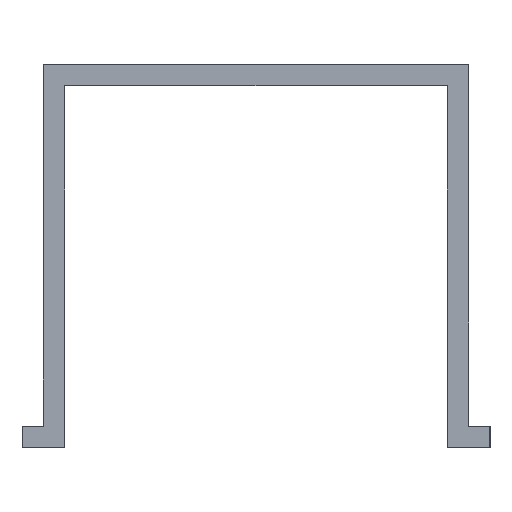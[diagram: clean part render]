
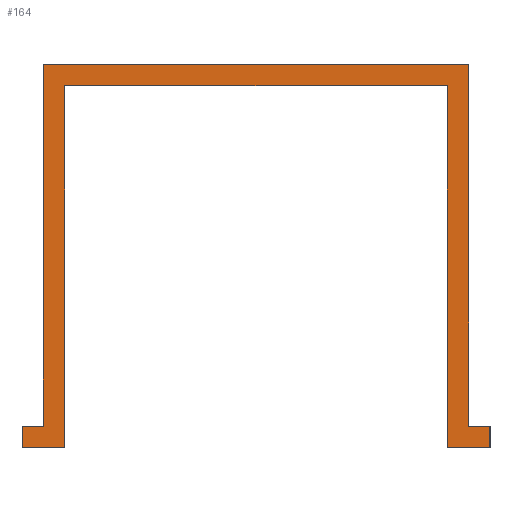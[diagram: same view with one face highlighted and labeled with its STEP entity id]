
A CAD part, left-side view. The second image highlights one B-rep face of the part: STEP entity #164.
In plain terms, the highlighted planar face has unit normal (-1, 0, 0).
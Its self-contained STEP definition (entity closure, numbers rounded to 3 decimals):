
#164=ADVANCED_FACE('',(#339),#340,.F.);
#339=FACE_OUTER_BOUND('',#518,.T.);
#340=PLANE('',#519);
#518=EDGE_LOOP('',(#941,#942,#943,#944,#945,#946,#947,#948,#949,#950,#951,#952,#953,#954,#955,#956));
#519=AXIS2_PLACEMENT_3D('',#957,#958,#959);
#941=ORIENTED_EDGE('',*,*,#1239,.T.);
#942=ORIENTED_EDGE('',*,*,#1141,.T.);
#943=ORIENTED_EDGE('',*,*,#1211,.T.);
#944=ORIENTED_EDGE('',*,*,#1216,.F.);
#945=ORIENTED_EDGE('',*,*,#1205,.F.);
#946=ORIENTED_EDGE('',*,*,#1236,.T.);
#947=ORIENTED_EDGE('',*,*,#1240,.T.);
#948=ORIENTED_EDGE('',*,*,#1241,.T.);
#949=ORIENTED_EDGE('',*,*,#1242,.T.);
#950=ORIENTED_EDGE('',*,*,#1243,.T.);
#951=ORIENTED_EDGE('',*,*,#1244,.T.);
#952=ORIENTED_EDGE('',*,*,#1245,.T.);
#953=ORIENTED_EDGE('',*,*,#1246,.T.);
#954=ORIENTED_EDGE('',*,*,#1247,.T.);
#955=ORIENTED_EDGE('',*,*,#1248,.T.);
#956=ORIENTED_EDGE('',*,*,#1249,.T.);
#957=CARTESIAN_POINT('',(0.0,0.,-6.763));
#958=DIRECTION('',(1.0,0.0,0.0));
#959=DIRECTION('',(0.0,0.,-1.0));
#1141=EDGE_CURVE('',#1381,#1379,#1382,.T.);
#1205=EDGE_CURVE('',#1473,#1476,#1477,.T.);
#1211=EDGE_CURVE('',#1379,#1484,#1486,.T.);
#1216=EDGE_CURVE('',#1476,#1484,#1493,.T.);
#1236=EDGE_CURVE('',#1473,#1516,#1518,.T.);
#1239=EDGE_CURVE('',#1521,#1381,#1522,.T.);
#1240=EDGE_CURVE('',#1516,#1523,#1524,.T.);
#1241=EDGE_CURVE('',#1523,#1525,#1526,.T.);
#1242=EDGE_CURVE('',#1525,#1527,#1528,.T.);
#1243=EDGE_CURVE('',#1527,#1529,#1530,.T.);
#1244=EDGE_CURVE('',#1529,#1531,#1532,.T.);
#1245=EDGE_CURVE('',#1531,#1533,#1534,.T.);
#1246=EDGE_CURVE('',#1533,#1535,#1536,.T.);
#1247=EDGE_CURVE('',#1535,#1537,#1538,.T.);
#1248=EDGE_CURVE('',#1537,#1539,#1540,.T.);
#1249=EDGE_CURVE('',#1539,#1521,#1541,.T.);
#1379=VERTEX_POINT('',#1713);
#1381=VERTEX_POINT('',#1715);
#1382=LINE('',#1716,#1717);
#1473=VERTEX_POINT('',#1836);
#1476=VERTEX_POINT('',#1839);
#1477=LINE('',#1840,#1841);
#1484=VERTEX_POINT('',#1850);
#1486=LINE('',#1852,#1853);
#1493=LINE('',#1861,#1862);
#1516=VERTEX_POINT('',#1892);
#1518=LINE('',#1895,#1896);
#1521=VERTEX_POINT('',#1899);
#1522=LINE('',#1900,#1901);
#1523=VERTEX_POINT('',#1902);
#1524=LINE('',#1903,#1904);
#1525=VERTEX_POINT('',#1905);
#1526=LINE('',#1906,#1907);
#1527=VERTEX_POINT('',#1908);
#1528=LINE('',#1909,#1910);
#1529=VERTEX_POINT('',#1911);
#1530=LINE('',#1912,#1913);
#1531=VERTEX_POINT('',#1914);
#1532=LINE('',#1915,#1916);
#1533=VERTEX_POINT('',#1917);
#1534=LINE('',#1918,#1919);
#1535=VERTEX_POINT('',#1920);
#1536=LINE('',#1921,#1922);
#1537=VERTEX_POINT('',#1923);
#1538=LINE('',#1924,#1925);
#1539=VERTEX_POINT('',#1926);
#1540=LINE('',#1927,#1928);
#1541=LINE('',#1929,#1930);
#1713=CARTESIAN_POINT('',(0.0,10.0,-16.995));
#1715=CARTESIAN_POINT('',(0.0,10.0,0.));
#1716=CARTESIAN_POINT('',(0.0,10.0,0.));
#1717=VECTOR('',#2073,1.0);
#1836=CARTESIAN_POINT('',(0.,10.0,-16.997));
#1839=CARTESIAN_POINT('',(0.,10.005,-16.997));
#1840=CARTESIAN_POINT('',(0.,10.0,-16.997));
#1841=VECTOR('',#2153,1.0);
#1850=CARTESIAN_POINT('',(0.0,10.005,-16.995));
#1852=CARTESIAN_POINT('',(0.0,10.0,-16.995));
#1853=VECTOR('',#2162,1.0);
#1861=CARTESIAN_POINT('',(0.0,10.005,-16.997));
#1862=VECTOR('',#2170,1.0);
#1892=CARTESIAN_POINT('',(0.0,10.0,-17.0));
#1895=CARTESIAN_POINT('',(0.0,10.0,0.));
#1896=VECTOR('',#2191,1.0);
#1899=CARTESIAN_POINT('',(0.0,-10.0,0.));
#1900=CARTESIAN_POINT('',(0.0,-10.0,0.));
#1901=VECTOR('',#2192,1.0);
#1902=CARTESIAN_POINT('',(0.0,11.,-17.0));
#1903=CARTESIAN_POINT('',(0.0,10.0,-17.0));
#1904=VECTOR('',#2193,1.0);
#1905=CARTESIAN_POINT('',(0.0,11.,-18.0));
#1906=CARTESIAN_POINT('',(0.0,11.,-17.0));
#1907=VECTOR('',#2194,1.0);
#1908=CARTESIAN_POINT('',(0.0,9.0,-18.0));
#1909=CARTESIAN_POINT('',(0.0,11.,-18.0));
#1910=VECTOR('',#2195,1.0);
#1911=CARTESIAN_POINT('',(0.0,9.0,-1.0));
#1912=CARTESIAN_POINT('',(0.0,9.0,-18.0));
#1913=VECTOR('',#2196,1.0);
#1914=CARTESIAN_POINT('',(0.0,-9.0,-1.0));
#1915=CARTESIAN_POINT('',(0.0,9.0,-1.0));
#1916=VECTOR('',#2197,1.0);
#1917=CARTESIAN_POINT('',(0.0,-9.0,-18.0));
#1918=CARTESIAN_POINT('',(0.0,-9.0,-1.0));
#1919=VECTOR('',#2198,1.0);
#1920=CARTESIAN_POINT('',(0.0,-11.,-18.0));
#1921=CARTESIAN_POINT('',(0.0,-9.0,-18.0));
#1922=VECTOR('',#2199,1.0);
#1923=CARTESIAN_POINT('',(0.0,-11.,-17.0));
#1924=CARTESIAN_POINT('',(0.0,-11.,-18.0));
#1925=VECTOR('',#2200,1.0);
#1926=CARTESIAN_POINT('',(0.0,-10.0,-17.0));
#1927=CARTESIAN_POINT('',(0.0,-11.,-17.0));
#1928=VECTOR('',#2201,1.0);
#1929=CARTESIAN_POINT('',(0.0,-10.0,-17.0));
#1930=VECTOR('',#2202,1.0);
#2073=DIRECTION('',(0.0,0.,-1.0));
#2153=DIRECTION('',(0.0,1.0,0.));
#2162=DIRECTION('',(0.0,1.0,0.));
#2170=DIRECTION('',(0.,0.,1.0));
#2191=DIRECTION('',(0.0,0.,-1.0));
#2192=DIRECTION('',(0.0,1.0,0.));
#2193=DIRECTION('',(0.0,1.0,0.));
#2194=DIRECTION('',(0.0,0.,-1.0));
#2195=DIRECTION('',(0.0,-1.0,0.));
#2196=DIRECTION('',(0.0,0.,1.0));
#2197=DIRECTION('',(0.0,-1.0,0.));
#2198=DIRECTION('',(0.0,0.,-1.0));
#2199=DIRECTION('',(0.0,-1.0,0.));
#2200=DIRECTION('',(0.0,0.,1.0));
#2201=DIRECTION('',(0.0,1.0,0.));
#2202=DIRECTION('',(0.0,0.,1.0));
